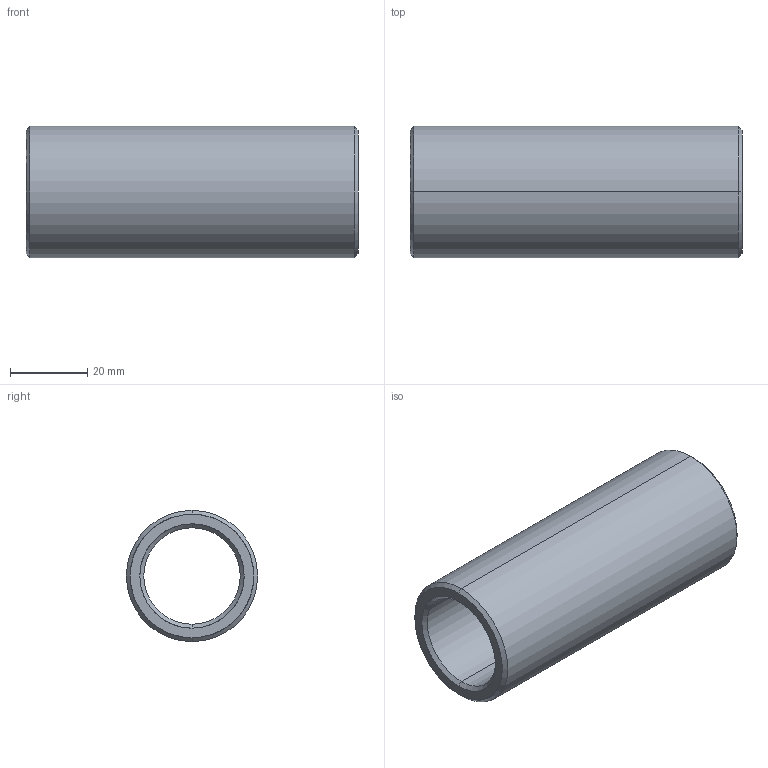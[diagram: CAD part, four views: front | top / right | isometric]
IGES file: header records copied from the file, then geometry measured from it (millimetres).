
Start section: START RECORD GO HERE.
Global section: file name: 352-25X86.igs; native system: DASSAULT SYSTEMES CATIA V5 R20 - www.3ds.com; preprocessor: CATIA Version 5 Release 20 ; author: Utente; organization: NB04-ASUS; date: 20210414.172609; units: millimetre
Bounding box: 86 x 34 x 34 mm (x, y, z)
Surface area: 16568.8 mm2 (no closed solid volume)
Topology: 0 solids, 0 shells, 14 faces, 88 edges, 88 vertices
Faces by surface type: revolution 12, plane 2
